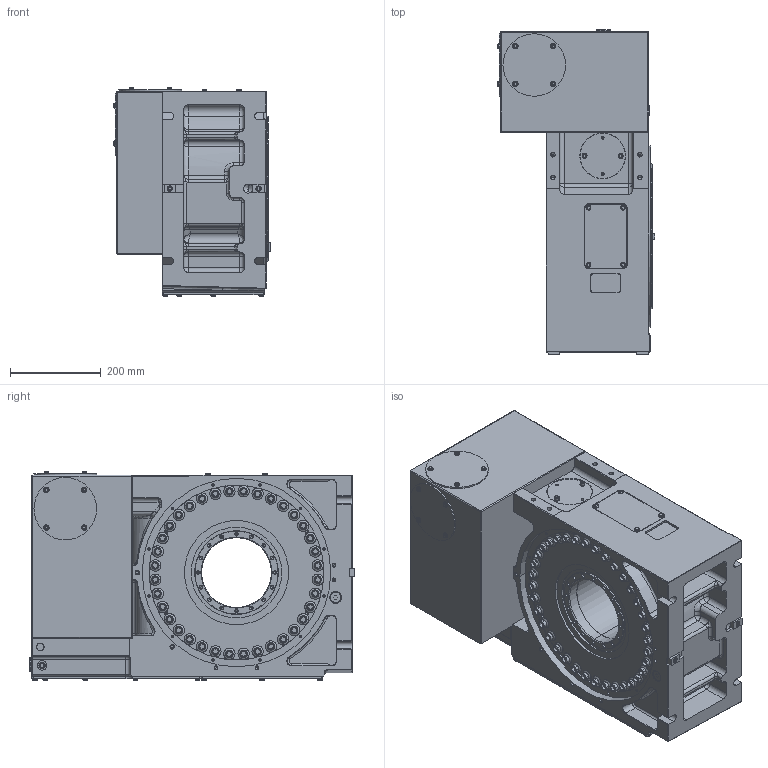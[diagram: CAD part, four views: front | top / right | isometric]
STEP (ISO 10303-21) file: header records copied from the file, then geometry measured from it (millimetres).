
FILE_DESCRIPTION (( 'STEP AP214' ), '1' );
FILE_NAME ('TUS400_カタログ用_ヨコ型.STEP', '2021-10-15T04:58:12', ( '' ), ( '' ), 'SwSTEP 2.0', 'SolidWorks 2020', '' );
FILE_SCHEMA (( 'AUTOMOTIVE_DESIGN' ));
Length unit declared in the file: millimetre
Products named in the file (1): TUS400_カタログ用_ヨコ型
Bounding box: 347.7 x 716.5 x 460.6 mm (x, y, z)
Volume: 68031271.2 mm3; surface area: 1993681 mm2
Topology: 9 solids, 14 shells, 3884 faces, 9716 edges, 6108 vertices
Faces by surface type: plane 2329, cylinder 892, cone 488, torus 117, bspline 42, sphere 16
Entity records: 159752 total; most frequent: CARTESIAN_POINT 23550, DIRECTION 19453, ORIENTED_EDGE 19106, EDGE_CURVE 9553, LINE 7053, VECTOR 7053, AXIS2_PLACEMENT_3D 6200, VERTEX_POINT 6106
